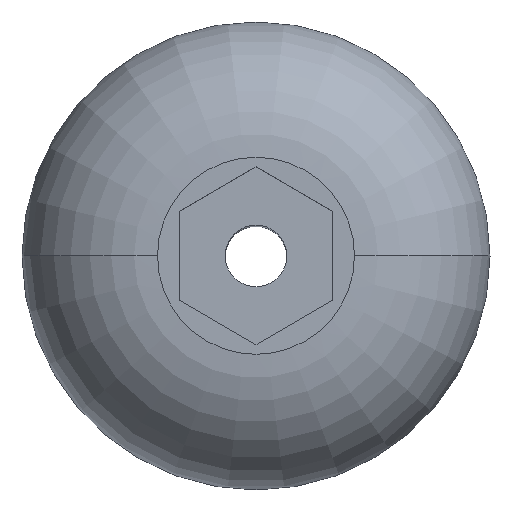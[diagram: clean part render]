
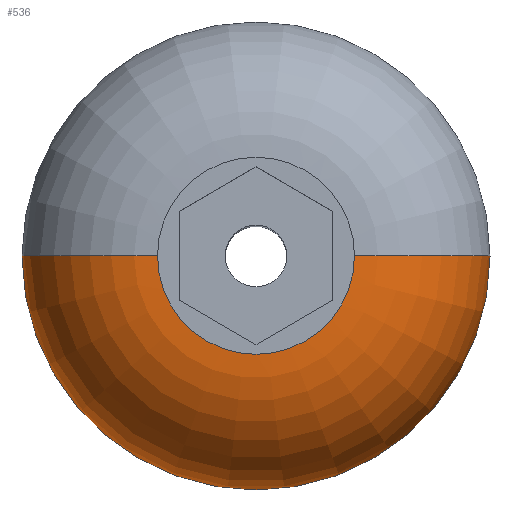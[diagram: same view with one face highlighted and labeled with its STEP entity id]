
A CAD part, top view. The second image highlights one B-rep face of the part: STEP entity #536.
In plain terms, the highlighted toroidal (fillet/blend) face has major radius 1.6 mm and minor radius 2.2 mm.
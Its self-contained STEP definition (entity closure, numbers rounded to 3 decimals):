
#42 = CARTESIAN_POINT ( 'NONE',  ( -1.6, 0., 0. ) ) ;
#81 = VERTEX_POINT ( 'NONE', #1273 ) ;
#98 = ORIENTED_EDGE ( 'NONE', *, *, #2057, .T. ) ;
#210 = AXIS2_PLACEMENT_3D ( 'NONE', #42, #1934, #214 ) ;
#214 = DIRECTION ( 'NONE',  ( -1., 0., 0. ) ) ;
#307 = CIRCLE ( 'NONE', #1676, 1.6 ) ;
#369 = DIRECTION ( 'NONE',  ( 1., 0., 0. ) ) ;
#403 = CARTESIAN_POINT ( 'NONE',  ( 0., 0., 0. ) ) ;
#414 = FACE_OUTER_BOUND ( 'NONE', #919, .T. ) ;
#420 = AXIS2_PLACEMENT_3D ( 'NONE', #2071, #1559, #369 ) ;
#530 = AXIS2_PLACEMENT_3D ( 'NONE', #1223, #1586, #1253 ) ;
#536 = ADVANCED_FACE ( 'NONE', ( #414 ), #1210, .T. ) ;
#641 = ORIENTED_EDGE ( 'NONE', *, *, #1596, .F. ) ;
#678 = VERTEX_POINT ( 'NONE', #1960 ) ;
#838 = CARTESIAN_POINT ( 'NONE',  ( 1.6, 0., 2.2 ) ) ;
#858 = CARTESIAN_POINT ( 'NONE',  ( 0., 0., 2.2 ) ) ;
#881 = ORIENTED_EDGE ( 'NONE', *, *, #1935, .T. ) ;
#915 = CARTESIAN_POINT ( 'NONE',  ( 3.8, 0., 0. ) ) ;
#919 = EDGE_LOOP ( 'NONE', ( #2116, #881, #98, #641 ) ) ;
#1131 = EDGE_CURVE ( 'NONE', #678, #81, #1819, .T. ) ;
#1152 = VERTEX_POINT ( 'NONE', #915 ) ;
#1210 = TOROIDAL_SURFACE ( 'NONE', #1583, 1.6, 2.2 ) ;
#1217 = DIRECTION ( 'NONE',  ( 1., 0., 0. ) ) ;
#1223 = CARTESIAN_POINT ( 'NONE',  ( 1.6, 0., 0. ) ) ;
#1253 = DIRECTION ( 'NONE',  ( 0., 0., -1. ) ) ;
#1273 = CARTESIAN_POINT ( 'NONE',  ( -1.6, 0., 2.2 ) ) ;
#1479 = VERTEX_POINT ( 'NONE', #838 ) ;
#1559 = DIRECTION ( 'NONE',  ( 0., 0., 1. ) ) ;
#1577 = DIRECTION ( 'NONE',  ( 0., 0., 1. ) ) ;
#1583 = AXIS2_PLACEMENT_3D ( 'NONE', #403, #1594, #1217 ) ;
#1586 = DIRECTION ( 'NONE',  ( 0., -1., 0. ) ) ;
#1594 = DIRECTION ( 'NONE',  ( 0., 0., 1. ) ) ;
#1596 = EDGE_CURVE ( 'NONE', #81, #1479, #307, .T. ) ;
#1676 = AXIS2_PLACEMENT_3D ( 'NONE', #858, #1577, #2060 ) ;
#1819 = CIRCLE ( 'NONE', #210, 2.2 ) ;
#1934 = DIRECTION ( 'NONE',  ( 0., 1., 0. ) ) ;
#1935 = EDGE_CURVE ( 'NONE', #678, #1152, #2013, .T. ) ;
#1954 = CIRCLE ( 'NONE', #530, 2.2 ) ;
#1960 = CARTESIAN_POINT ( 'NONE',  ( -3.8, 0., 0. ) ) ;
#2013 = CIRCLE ( 'NONE', #420, 3.8 ) ;
#2057 = EDGE_CURVE ( 'NONE', #1152, #1479, #1954, .T. ) ;
#2060 = DIRECTION ( 'NONE',  ( 1., 0., 0. ) ) ;
#2071 = CARTESIAN_POINT ( 'NONE',  ( 0., 0., 0. ) ) ;
#2116 = ORIENTED_EDGE ( 'NONE', *, *, #1131, .F. ) ;
